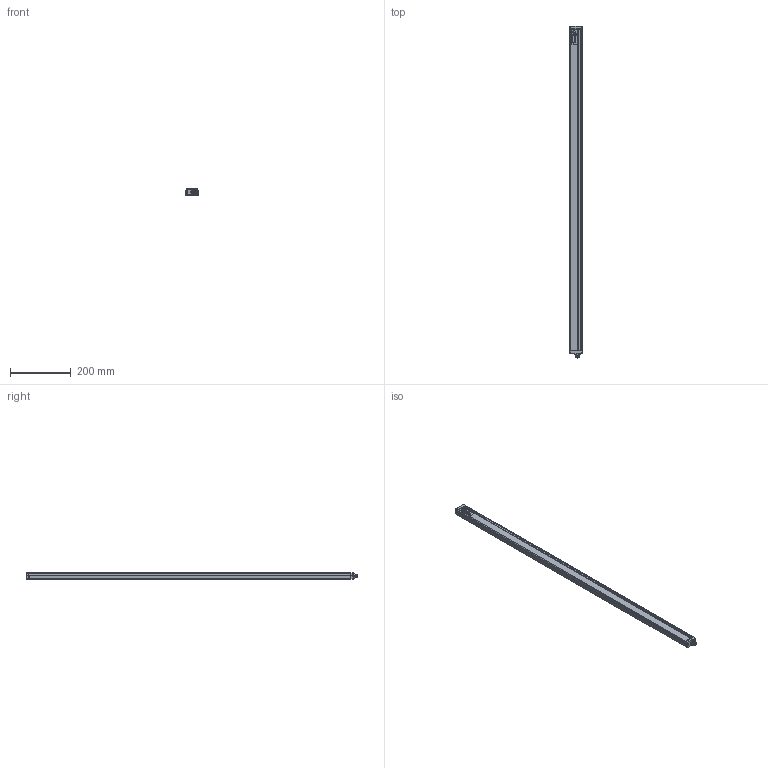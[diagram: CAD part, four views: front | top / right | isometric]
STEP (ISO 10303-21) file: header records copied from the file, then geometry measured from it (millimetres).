
FILE_DESCRIPTION(/* description */ (''),/* implementation_level */ '2;1');
FILE_NAME(/* name */ 'C:\Users\andre\SynologyDrive\Optoscan\Libreria Componenti\00 - Barriere\Polaris sorgente\Barriera Polaris RX\Polaris_1060_RX.stp',/* time_stamp */ '2021-06-04T11:51:29+02:00',/* author */ ('andre'),/* organization */ (''),/* preprocessor_version */ 'ST-DEVELOPER v18',/* originating_system */ 'Autodesk Inventor 2020',/* authorisation */ '');
FILE_SCHEMA (('AUTOMOTIVE_DESIGN { 1 0 10303 214 3 1 1 }'));
Length unit declared in the file: millimetre
Products named in the file (1): Polaris_1060_RX
Bounding box: 40.5 x 1089.3 x 20.75 mm (x, y, z)
Volume: 216945.1 mm3; surface area: 284900.2 mm2
Topology: 1 solids, 1 shells, 700 faces, 1926 edges, 1237 vertices
Faces by surface type: plane 319, cylinder 199, bspline 94, torus 70, sphere 10, cone 8
Full cylindrical faces by diameter (mm): 1 x8, 2.459 x4, 2.5 x4, 3 x4, 3.5 x4, 5.5 x4, 8 x1, 10.5 x2, 11.75 x9, 15.7 x1, 17.5 x1
Entity records: 28472 total; most frequent: CARTESIAN_POINT 10246, ORIENTED_EDGE 3826, DIRECTION 3447, EDGE_CURVE 1913, VERTEX_POINT 1237, AXIS2_PLACEMENT_3D 1211, LINE 1025, VECTOR 1025
